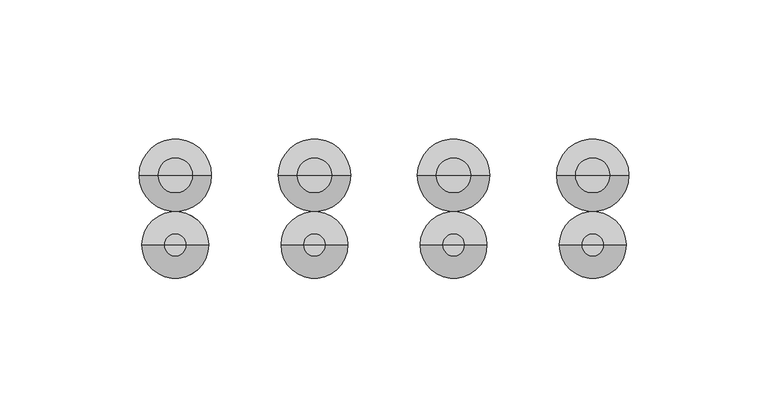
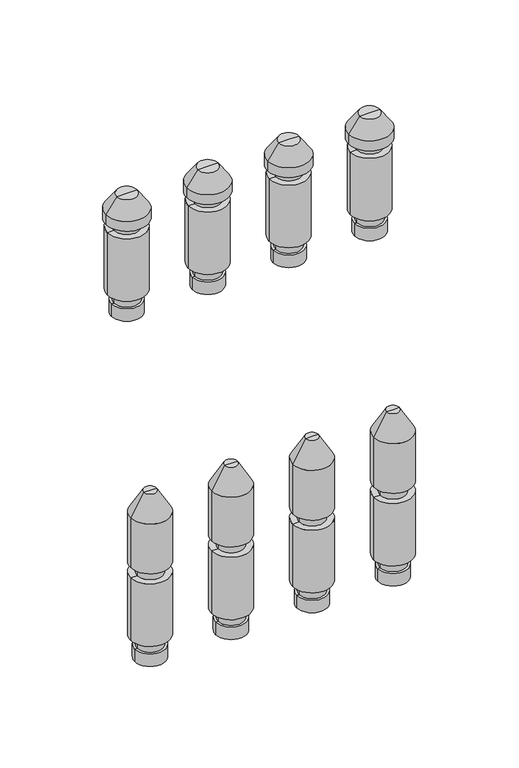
"""IFC4 building model written with IfcOpenShell, lengths in millimetres: valve geometry, PL CZ_Manifold_FT-VA : 06 circuits."""

from ifc_helpers import new_model, si_unit, frame, origin, place, context, project, spatial, polyline, circle_curve, source, transform, mapped, element, save
from ifc_brep_helpers import plane_surface, cylinder_surface, revolved_surface, advanced_brep


def valve_440f56c5(model_context):
    return source(origin(), model_context, "Body", "AdvancedBrep", [
        advanced_brep(
        [(228.5, 0.0, -35.11267), (247.5, 0.0, -35.11267), (238.0, 0.0, -35.11267), (228.5, 0.0, -27.0369646), (247.5, 0.0, -27.0369646), (230.0, 0.0, -27.0369646), (246.0, 0.0, -27.0369646), (230.0, 0.0, -20.330253), (246.0, 0.0, -20.330253), (226.0, 0.0, -20.330253), (250.0, 0.0, -20.330253), (226.0, 0.0, 20.330253), (250.0, 0.0, 20.330253), (230.0, 0.0, 20.330253), (246.0, 0.0, 20.330253), (230.0, 0.0, 27.0474786), (246.0, 0.0, 27.0474786), (226.0, 0.0, 27.0474786), (250.0, 0.0, 27.0474786), (226.0, 0.0, 59.4084325), (250.0, 0.0, 59.4084325), (234.0, 0.0, 73.264839), (242.0, 0.0, 73.264839), (238.0, 0.0, 73.264839)],
        [
            (0, 1, circle_curve(frame((238.0, 0.0, -35.11267), z_axis=(0.0, 0.0, -1.0), x_axis=(1.0, 0.0, 0.0)), 9.5)),
            (1, 2),
            (2, 0),
            (1, 0, circle_curve(frame((238.0, 0.0, -35.11267), z_axis=(0.0, 0.0, -1.0), x_axis=(1.0, 0.0, 0.0)), 9.5)),
            (3, 4, circle_curve(frame((238.0, 0.0, -27.0369646), z_axis=(0.0, 0.0, -1.0), x_axis=(1.0, 0.0, 0.0)), 9.5)),
            (4, 1),
            (0, 3),
            (4, 3, circle_curve(frame((238.0, 0.0, -27.0369646), z_axis=(0.0, 0.0, -1.0), x_axis=(1.0, 0.0, 0.0)), 9.5)),
            (5, 6, circle_curve(frame((238.0, 0.0, -27.0369646), z_axis=(0.0, 0.0, -1.0), x_axis=(1.0, 0.0, 0.0)), 8.0)),
            (6, 4),
            (3, 5),
            (6, 5, circle_curve(frame((238.0, 0.0, -27.0369646), z_axis=(0.0, 0.0, -1.0), x_axis=(1.0, 0.0, 0.0)), 8.0)),
            (7, 8, circle_curve(frame((238.0, 0.0, -20.330253), z_axis=(0.0, 0.0, -1.0), x_axis=(1.0, 0.0, 0.0)), 8.0)),
            (8, 6),
            (5, 7),
            (8, 7, circle_curve(frame((238.0, 0.0, -20.330253), z_axis=(0.0, 0.0, -1.0), x_axis=(1.0, 0.0, 0.0)), 8.0)),
            (9, 10, circle_curve(frame((238.0, 0.0, -20.330253), z_axis=(0.0, 0.0, -1.0), x_axis=(1.0, 0.0, 0.0)), 12.0)),
            (10, 8),
            (7, 9),
            (10, 9, circle_curve(frame((238.0, 0.0, -20.330253), z_axis=(0.0, 0.0, -1.0), x_axis=(1.0, 0.0, 0.0)), 12.0)),
            (11, 12, circle_curve(frame((238.0, 0.0, 20.330253), z_axis=(0.0, 0.0, -1.0), x_axis=(1.0, 0.0, 0.0)), 12.0)),
            (12, 10),
            (9, 11),
            (12, 11, circle_curve(frame((238.0, 0.0, 20.330253), z_axis=(0.0, 0.0, -1.0), x_axis=(1.0, 0.0, 0.0)), 12.0)),
            (13, 14, circle_curve(frame((238.0, 0.0, 20.330253), z_axis=(0.0, 0.0, -1.0), x_axis=(1.0, 0.0, 0.0)), 8.0)),
            (14, 12),
            (11, 13),
            (14, 13, circle_curve(frame((238.0, 0.0, 20.330253), z_axis=(0.0, 0.0, -1.0), x_axis=(1.0, 0.0, 0.0)), 8.0)),
            (15, 16, circle_curve(frame((238.0, 0.0, 27.0474786), z_axis=(0.0, 0.0, -1.0), x_axis=(1.0, 0.0, 0.0)), 8.0)),
            (16, 14),
            (13, 15),
            (16, 15, circle_curve(frame((238.0, 0.0, 27.0474786), z_axis=(0.0, 0.0, -1.0), x_axis=(1.0, 0.0, 0.0)), 8.0)),
            (17, 18, circle_curve(frame((238.0, 0.0, 27.0474786), z_axis=(0.0, 0.0, -1.0), x_axis=(1.0, 0.0, 0.0)), 12.0)),
            (18, 16),
            (15, 17),
            (18, 17, circle_curve(frame((238.0, 0.0, 27.0474786), z_axis=(0.0, 0.0, -1.0), x_axis=(1.0, 0.0, 0.0)), 12.0)),
            (19, 20, circle_curve(frame((238.0, 0.0, 59.4084325), z_axis=(0.0, 0.0, -1.0), x_axis=(1.0, 0.0, 0.0)), 12.0)),
            (20, 18),
            (17, 19),
            (20, 19, circle_curve(frame((238.0, 0.0, 59.4084325), z_axis=(0.0, 0.0, -1.0), x_axis=(1.0, 0.0, 0.0)), 12.0)),
            (21, 22, circle_curve(frame((238.0, 0.0, 73.264839), z_axis=(0.0, 0.0, -1.0), x_axis=(1.0, 0.0, 0.0)), 4.0)),
            (22, 20),
            (19, 21),
            (22, 21, circle_curve(frame((238.0, 0.0, 73.264839), z_axis=(0.0, 0.0, -1.0), x_axis=(1.0, 0.0, 0.0)), 4.0)),
            (23, 22),
            (21, 23),
        ],
        [
            plane_surface(frame((238.0, 0.0, -35.11267), z_axis=(0.0, 0.0, -1.0), x_axis=(1.0, 0.0, 0.0))),
            cylinder_surface(frame((238.0, 0.0, 58.264839), z_axis=(0.0, 0.0, 1.0), x_axis=(1.0, 0.0, 0.0)), 9.5),
            plane_surface(frame((238.0, 0.0, -27.0369646), z_axis=(0.0, 0.0, 1.0), x_axis=(1.0, 0.0, 0.0))),
            cylinder_surface(frame((238.0, 0.0, 58.264839), z_axis=(0.0, 0.0, 1.0), x_axis=(1.0, 0.0, 0.0)), 8.0),
            plane_surface(frame((238.0, 0.0, -20.330253), z_axis=(0.0, 0.0, -1.0), x_axis=(1.0, 0.0, 0.0))),
            cylinder_surface(frame((238.0, 0.0, 58.264839), z_axis=(0.0, 0.0, 1.0), x_axis=(1.0, 0.0, 0.0)), 12.0),
            plane_surface(frame((238.0, 0.0, 20.330253), z_axis=(0.0, 0.0, 1.0), x_axis=(1.0, 0.0, 0.0))),
            plane_surface(frame((238.0, 0.0, 27.0474786), z_axis=(0.0, 0.0, -1.0), x_axis=(1.0, 0.0, 0.0))),
            revolved_surface(polyline([(250.0, 0.0, 59.4084325), (242.0, 0.0, 73.264839)]), (238.0, 0.0, 58.264839), (0.0, 0.0, 1.0)),
            plane_surface(frame((238.0, 0.0, 73.264839), z_axis=(0.0, 0.0, 1.0), x_axis=(1.0, 0.0, 0.0))),
        ],
        [
            (0, [[1, 2, 3]]),
            (0, [[4, -3, -2]]),
            (1, [[5, 6, -1, 7]]),
            (1, [[8, -7, -4, -6]]),
            (2, [[9, 10, -5, 11]]),
            (2, [[12, -11, -8, -10]]),
            (3, [[13, 14, -9, 15]]),
            (3, [[16, -15, -12, -14]]),
            (4, [[17, 18, -13, 19]]),
            (4, [[20, -19, -16, -18]]),
            (5, [[21, 22, -17, 23]]),
            (5, [[24, -23, -20, -22]]),
            (6, [[25, 26, -21, 27]]),
            (6, [[28, -27, -24, -26]]),
            (3, [[29, 30, -25, 31]]),
            (3, [[32, -31, -28, -30]]),
            (7, [[33, 34, -29, 35]]),
            (7, [[36, -35, -32, -34]]),
            (5, [[37, 38, -33, 39]]),
            (5, [[40, -39, -36, -38]]),
            (8, [[41, 42, -37, 43]]),
            (8, [[44, -43, -40, -42]]),
            (9, [[45, -41, 46]]),
            (9, [[-46, -44, -45]]),
        ],
    ),
        advanced_brep(
        [(178.5, 0.0, -35.11267), (197.5, 0.0, -35.11267), (188.0, 0.0, -35.11267), (178.5, 0.0, -27.0369646), (197.5, 0.0, -27.0369646), (180.0, 0.0, -27.0369646), (196.0, 0.0, -27.0369646), (180.0, 0.0, -20.330253), (196.0, 0.0, -20.330253), (176.0, 0.0, -20.330253), (200.0, 0.0, -20.330253), (176.0, 0.0, 20.330253), (200.0, 0.0, 20.330253), (180.0, 0.0, 20.330253), (196.0, 0.0, 20.330253), (180.0, 0.0, 27.0474786), (196.0, 0.0, 27.0474786), (176.0, 0.0, 27.0474786), (200.0, 0.0, 27.0474786), (176.0, 0.0, 59.4084325), (200.0, 0.0, 59.4084325), (184.0, 0.0, 73.264839), (192.0, 0.0, 73.264839), (188.0, 0.0, 73.264839)],
        [
            (0, 1, circle_curve(frame((188.0, 0.0, -35.11267), z_axis=(0.0, 0.0, -1.0), x_axis=(1.0, 0.0, 0.0)), 9.5)),
            (1, 2),
            (2, 0),
            (1, 0, circle_curve(frame((188.0, 0.0, -35.11267), z_axis=(0.0, 0.0, -1.0), x_axis=(1.0, 0.0, 0.0)), 9.5)),
            (3, 4, circle_curve(frame((188.0, 0.0, -27.0369646), z_axis=(0.0, 0.0, -1.0), x_axis=(1.0, 0.0, 0.0)), 9.5)),
            (4, 1),
            (0, 3),
            (4, 3, circle_curve(frame((188.0, 0.0, -27.0369646), z_axis=(0.0, 0.0, -1.0), x_axis=(1.0, 0.0, 0.0)), 9.5)),
            (5, 6, circle_curve(frame((188.0, 0.0, -27.0369646), z_axis=(0.0, 0.0, -1.0), x_axis=(1.0, 0.0, 0.0)), 8.0)),
            (6, 4),
            (3, 5),
            (6, 5, circle_curve(frame((188.0, 0.0, -27.0369646), z_axis=(0.0, 0.0, -1.0), x_axis=(1.0, 0.0, 0.0)), 8.0)),
            (7, 8, circle_curve(frame((188.0, 0.0, -20.330253), z_axis=(0.0, 0.0, -1.0), x_axis=(1.0, 0.0, 0.0)), 8.0)),
            (8, 6),
            (5, 7),
            (8, 7, circle_curve(frame((188.0, 0.0, -20.330253), z_axis=(0.0, 0.0, -1.0), x_axis=(1.0, 0.0, 0.0)), 8.0)),
            (9, 10, circle_curve(frame((188.0, 0.0, -20.330253), z_axis=(0.0, 0.0, -1.0), x_axis=(1.0, 0.0, 0.0)), 12.0)),
            (10, 8),
            (7, 9),
            (10, 9, circle_curve(frame((188.0, 0.0, -20.330253), z_axis=(0.0, 0.0, -1.0), x_axis=(1.0, 0.0, 0.0)), 12.0)),
            (11, 12, circle_curve(frame((188.0, 0.0, 20.330253), z_axis=(0.0, 0.0, -1.0), x_axis=(1.0, 0.0, 0.0)), 12.0)),
            (12, 10),
            (9, 11),
            (12, 11, circle_curve(frame((188.0, 0.0, 20.330253), z_axis=(0.0, 0.0, -1.0), x_axis=(1.0, 0.0, 0.0)), 12.0)),
            (13, 14, circle_curve(frame((188.0, 0.0, 20.330253), z_axis=(0.0, 0.0, -1.0), x_axis=(1.0, 0.0, 0.0)), 8.0)),
            (14, 12),
            (11, 13),
            (14, 13, circle_curve(frame((188.0, 0.0, 20.330253), z_axis=(0.0, 0.0, -1.0), x_axis=(1.0, 0.0, 0.0)), 8.0)),
            (15, 16, circle_curve(frame((188.0, 0.0, 27.0474786), z_axis=(0.0, 0.0, -1.0), x_axis=(1.0, 0.0, 0.0)), 8.0)),
            (16, 14),
            (13, 15),
            (16, 15, circle_curve(frame((188.0, 0.0, 27.0474786), z_axis=(0.0, 0.0, -1.0), x_axis=(1.0, 0.0, 0.0)), 8.0)),
            (17, 18, circle_curve(frame((188.0, 0.0, 27.0474786), z_axis=(0.0, 0.0, -1.0), x_axis=(1.0, 0.0, 0.0)), 12.0)),
            (18, 16),
            (15, 17),
            (18, 17, circle_curve(frame((188.0, 0.0, 27.0474786), z_axis=(0.0, 0.0, -1.0), x_axis=(1.0, 0.0, 0.0)), 12.0)),
            (19, 20, circle_curve(frame((188.0, 0.0, 59.4084325), z_axis=(0.0, 0.0, -1.0), x_axis=(1.0, 0.0, 0.0)), 12.0)),
            (20, 18),
            (17, 19),
            (20, 19, circle_curve(frame((188.0, 0.0, 59.4084325), z_axis=(0.0, 0.0, -1.0), x_axis=(1.0, 0.0, 0.0)), 12.0)),
            (21, 22, circle_curve(frame((188.0, 0.0, 73.264839), z_axis=(0.0, 0.0, -1.0), x_axis=(1.0, 0.0, 0.0)), 4.0)),
            (22, 20),
            (19, 21),
            (22, 21, circle_curve(frame((188.0, 0.0, 73.264839), z_axis=(0.0, 0.0, -1.0), x_axis=(1.0, 0.0, 0.0)), 4.0)),
            (23, 22),
            (21, 23),
        ],
        [
            plane_surface(frame((188.0, 0.0, -35.11267), z_axis=(0.0, 0.0, -1.0), x_axis=(1.0, 0.0, 0.0))),
            cylinder_surface(frame((188.0, 0.0, 58.264839), z_axis=(0.0, 0.0, 1.0), x_axis=(1.0, 0.0, 0.0)), 9.5),
            plane_surface(frame((188.0, 0.0, -27.0369646), z_axis=(0.0, 0.0, 1.0), x_axis=(1.0, 0.0, 0.0))),
            cylinder_surface(frame((188.0, 0.0, 58.264839), z_axis=(0.0, 0.0, 1.0), x_axis=(1.0, 0.0, 0.0)), 8.0),
            plane_surface(frame((188.0, 0.0, -20.330253), z_axis=(0.0, 0.0, -1.0), x_axis=(1.0, 0.0, 0.0))),
            cylinder_surface(frame((188.0, 0.0, 58.264839), z_axis=(0.0, 0.0, 1.0), x_axis=(1.0, 0.0, 0.0)), 12.0),
            plane_surface(frame((188.0, 0.0, 20.330253), z_axis=(0.0, 0.0, 1.0), x_axis=(1.0, 0.0, 0.0))),
            plane_surface(frame((188.0, 0.0, 27.0474786), z_axis=(0.0, 0.0, -1.0), x_axis=(1.0, 0.0, 0.0))),
            revolved_surface(polyline([(200.0, 0.0, 59.4084325), (192.0, 0.0, 73.264839)]), (188.0, 0.0, 58.264839), (0.0, 0.0, 1.0)),
            plane_surface(frame((188.0, 0.0, 73.264839), z_axis=(0.0, 0.0, 1.0), x_axis=(1.0, 0.0, 0.0))),
        ],
        [
            (0, [[1, 2, 3]]),
            (0, [[4, -3, -2]]),
            (1, [[5, 6, -1, 7]]),
            (1, [[8, -7, -4, -6]]),
            (2, [[9, 10, -5, 11]]),
            (2, [[12, -11, -8, -10]]),
            (3, [[13, 14, -9, 15]]),
            (3, [[16, -15, -12, -14]]),
            (4, [[17, 18, -13, 19]]),
            (4, [[20, -19, -16, -18]]),
            (5, [[21, 22, -17, 23]]),
            (5, [[24, -23, -20, -22]]),
            (6, [[25, 26, -21, 27]]),
            (6, [[28, -27, -24, -26]]),
            (3, [[29, 30, -25, 31]]),
            (3, [[32, -31, -28, -30]]),
            (7, [[33, 34, -29, 35]]),
            (7, [[36, -35, -32, -34]]),
            (5, [[37, 38, -33, 39]]),
            (5, [[40, -39, -36, -38]]),
            (8, [[41, 42, -37, 43]]),
            (8, [[44, -43, -40, -42]]),
            (9, [[45, -41, 46]]),
            (9, [[-46, -44, -45]]),
        ],
    ),
        advanced_brep(
        [(128.5, 0.0, -35.11267), (147.5, 0.0, -35.11267), (138.0, 0.0, -35.11267), (128.5, 0.0, -27.0369646), (147.5, 0.0, -27.0369646), (130.0, 0.0, -27.0369646), (146.0, 0.0, -27.0369646), (130.0, 0.0, -20.330253), (146.0, 0.0, -20.330253), (126.0, 0.0, -20.330253), (150.0, 0.0, -20.330253), (126.0, 0.0, 20.330253), (150.0, 0.0, 20.330253), (130.0, 0.0, 20.330253), (146.0, 0.0, 20.330253), (130.0, 0.0, 27.0474786), (146.0, 0.0, 27.0474786), (126.0, 0.0, 27.0474786), (150.0, 0.0, 27.0474786), (126.0, 0.0, 59.4084325), (150.0, 0.0, 59.4084325), (134.0, 0.0, 73.264839), (142.0, 0.0, 73.264839), (138.0, 0.0, 73.264839)],
        [
            (0, 1, circle_curve(frame((138.0, 0.0, -35.11267), z_axis=(0.0, 0.0, -1.0), x_axis=(1.0, 0.0, 0.0)), 9.5)),
            (1, 2),
            (2, 0),
            (1, 0, circle_curve(frame((138.0, 0.0, -35.11267), z_axis=(0.0, 0.0, -1.0), x_axis=(1.0, 0.0, 0.0)), 9.5)),
            (3, 4, circle_curve(frame((138.0, 0.0, -27.0369646), z_axis=(0.0, 0.0, -1.0), x_axis=(1.0, 0.0, 0.0)), 9.5)),
            (4, 1),
            (0, 3),
            (4, 3, circle_curve(frame((138.0, 0.0, -27.0369646), z_axis=(0.0, 0.0, -1.0), x_axis=(1.0, 0.0, 0.0)), 9.5)),
            (5, 6, circle_curve(frame((138.0, 0.0, -27.0369646), z_axis=(0.0, 0.0, -1.0), x_axis=(1.0, 0.0, 0.0)), 8.0)),
            (6, 4),
            (3, 5),
            (6, 5, circle_curve(frame((138.0, 0.0, -27.0369646), z_axis=(0.0, 0.0, -1.0), x_axis=(1.0, 0.0, 0.0)), 8.0)),
            (7, 8, circle_curve(frame((138.0, 0.0, -20.330253), z_axis=(0.0, 0.0, -1.0), x_axis=(1.0, 0.0, 0.0)), 8.0)),
            (8, 6),
            (5, 7),
            (8, 7, circle_curve(frame((138.0, 0.0, -20.330253), z_axis=(0.0, 0.0, -1.0), x_axis=(1.0, 0.0, 0.0)), 8.0)),
            (9, 10, circle_curve(frame((138.0, 0.0, -20.330253), z_axis=(0.0, 0.0, -1.0), x_axis=(1.0, 0.0, 0.0)), 12.0)),
            (10, 8),
            (7, 9),
            (10, 9, circle_curve(frame((138.0, 0.0, -20.330253), z_axis=(0.0, 0.0, -1.0), x_axis=(1.0, 0.0, 0.0)), 12.0)),
            (11, 12, circle_curve(frame((138.0, 0.0, 20.330253), z_axis=(0.0, 0.0, -1.0), x_axis=(1.0, 0.0, 0.0)), 12.0)),
            (12, 10),
            (9, 11),
            (12, 11, circle_curve(frame((138.0, 0.0, 20.330253), z_axis=(0.0, 0.0, -1.0), x_axis=(1.0, 0.0, 0.0)), 12.0)),
            (13, 14, circle_curve(frame((138.0, 0.0, 20.330253), z_axis=(0.0, 0.0, -1.0), x_axis=(1.0, 0.0, 0.0)), 8.0)),
            (14, 12),
            (11, 13),
            (14, 13, circle_curve(frame((138.0, 0.0, 20.330253), z_axis=(0.0, 0.0, -1.0), x_axis=(1.0, 0.0, 0.0)), 8.0)),
            (15, 16, circle_curve(frame((138.0, 0.0, 27.0474786), z_axis=(0.0, 0.0, -1.0), x_axis=(1.0, 0.0, 0.0)), 8.0)),
            (16, 14),
            (13, 15),
            (16, 15, circle_curve(frame((138.0, 0.0, 27.0474786), z_axis=(0.0, 0.0, -1.0), x_axis=(1.0, 0.0, 0.0)), 8.0)),
            (17, 18, circle_curve(frame((138.0, 0.0, 27.0474786), z_axis=(0.0, 0.0, -1.0), x_axis=(1.0, 0.0, 0.0)), 12.0)),
            (18, 16),
            (15, 17),
            (18, 17, circle_curve(frame((138.0, 0.0, 27.0474786), z_axis=(0.0, 0.0, -1.0), x_axis=(1.0, 0.0, 0.0)), 12.0)),
            (19, 20, circle_curve(frame((138.0, 0.0, 59.4084325), z_axis=(0.0, 0.0, -1.0), x_axis=(1.0, 0.0, 0.0)), 12.0)),
            (20, 18),
            (17, 19),
            (20, 19, circle_curve(frame((138.0, 0.0, 59.4084325), z_axis=(0.0, 0.0, -1.0), x_axis=(1.0, 0.0, 0.0)), 12.0)),
            (21, 22, circle_curve(frame((138.0, 0.0, 73.264839), z_axis=(0.0, 0.0, -1.0), x_axis=(1.0, 0.0, 0.0)), 4.0)),
            (22, 20),
            (19, 21),
            (22, 21, circle_curve(frame((138.0, 0.0, 73.264839), z_axis=(0.0, 0.0, -1.0), x_axis=(1.0, 0.0, 0.0)), 4.0)),
            (23, 22),
            (21, 23),
        ],
        [
            plane_surface(frame((138.0, 0.0, -35.11267), z_axis=(0.0, 0.0, -1.0), x_axis=(1.0, 0.0, 0.0))),
            cylinder_surface(frame((138.0, 0.0, 58.264839), z_axis=(0.0, 0.0, 1.0), x_axis=(1.0, 0.0, 0.0)), 9.5),
            plane_surface(frame((138.0, 0.0, -27.0369646), z_axis=(0.0, 0.0, 1.0), x_axis=(1.0, 0.0, 0.0))),
            cylinder_surface(frame((138.0, 0.0, 58.264839), z_axis=(0.0, 0.0, 1.0), x_axis=(1.0, 0.0, 0.0)), 8.0),
            plane_surface(frame((138.0, 0.0, -20.330253), z_axis=(0.0, 0.0, -1.0), x_axis=(1.0, 0.0, 0.0))),
            cylinder_surface(frame((138.0, 0.0, 58.264839), z_axis=(0.0, 0.0, 1.0), x_axis=(1.0, 0.0, 0.0)), 12.0),
            plane_surface(frame((138.0, 0.0, 20.330253), z_axis=(0.0, 0.0, 1.0), x_axis=(1.0, 0.0, 0.0))),
            plane_surface(frame((138.0, 0.0, 27.0474786), z_axis=(0.0, 0.0, -1.0), x_axis=(1.0, 0.0, 0.0))),
            revolved_surface(polyline([(150.0, 0.0, 59.4084325), (142.0, 0.0, 73.264839)]), (138.0, 0.0, 58.264839), (0.0, 0.0, 1.0)),
            plane_surface(frame((138.0, 0.0, 73.264839), z_axis=(0.0, 0.0, 1.0), x_axis=(1.0, 0.0, 0.0))),
        ],
        [
            (0, [[1, 2, 3]]),
            (0, [[4, -3, -2]]),
            (1, [[5, 6, -1, 7]]),
            (1, [[8, -7, -4, -6]]),
            (2, [[9, 10, -5, 11]]),
            (2, [[12, -11, -8, -10]]),
            (3, [[13, 14, -9, 15]]),
            (3, [[16, -15, -12, -14]]),
            (4, [[17, 18, -13, 19]]),
            (4, [[20, -19, -16, -18]]),
            (5, [[21, 22, -17, 23]]),
            (5, [[24, -23, -20, -22]]),
            (6, [[25, 26, -21, 27]]),
            (6, [[28, -27, -24, -26]]),
            (3, [[29, 30, -25, 31]]),
            (3, [[32, -31, -28, -30]]),
            (7, [[33, 34, -29, 35]]),
            (7, [[36, -35, -32, -34]]),
            (5, [[37, 38, -33, 39]]),
            (5, [[40, -39, -36, -38]]),
            (8, [[41, 42, -37, 43]]),
            (8, [[44, -43, -40, -42]]),
            (9, [[45, -41, 46]]),
            (9, [[-46, -44, -45]]),
        ],
    ),
        advanced_brep(
        [(228.5, 25.0, 174.88733), (247.5, 25.0, 174.88733), (238.0, 25.0, 174.88733), (228.5, 25.0, 182.9630354), (247.5, 25.0, 182.9630354), (230.0, 25.0, 182.9630354), (246.0, 25.0, 182.9630354), (230.0, 25.0, 189.669747), (246.0, 25.0, 189.669747), (226.0, 25.0, 189.669747), (250.0, 25.0, 189.669747), (226.0, 25.0, 230.330253), (250.0, 25.0, 230.330253), (230.0, 25.0, 230.330253), (246.0, 25.0, 230.330253), (230.0, 25.0, 236.0474786), (246.0, 25.0, 236.0474786), (225.0, 25.0, 236.0474786), (251.0, 25.0, 236.0474786), (225.0, 25.0, 242.337955), (251.0, 25.0, 242.337955), (231.6551779, 25.0, 251.842534), (244.3448221, 25.0, 251.842534), (238.0, 25.0, 251.842534)],
        [
            (0, 1, circle_curve(frame((238.0, 25.0, 174.88733), z_axis=(0.0, 0.0, -1.0), x_axis=(1.0, 0.0, 0.0)), 9.5)),
            (1, 2),
            (2, 0),
            (1, 0, circle_curve(frame((238.0, 25.0, 174.88733), z_axis=(0.0, 0.0, -1.0), x_axis=(1.0, 0.0, 0.0)), 9.5)),
            (3, 4, circle_curve(frame((238.0, 25.0, 182.9630354), z_axis=(0.0, 0.0, -1.0), x_axis=(1.0, 0.0, 0.0)), 9.5)),
            (4, 1),
            (0, 3),
            (4, 3, circle_curve(frame((238.0, 25.0, 182.9630354), z_axis=(0.0, 0.0, -1.0), x_axis=(1.0, 0.0, 0.0)), 9.5)),
            (5, 6, circle_curve(frame((238.0, 25.0, 182.9630354), z_axis=(0.0, 0.0, -1.0), x_axis=(1.0, 0.0, 0.0)), 8.0)),
            (6, 4),
            (3, 5),
            (6, 5, circle_curve(frame((238.0, 25.0, 182.9630354), z_axis=(0.0, 0.0, -1.0), x_axis=(1.0, 0.0, 0.0)), 8.0)),
            (7, 8, circle_curve(frame((238.0, 25.0, 189.669747), z_axis=(0.0, 0.0, -1.0), x_axis=(1.0, 0.0, 0.0)), 8.0)),
            (8, 6),
            (5, 7),
            (8, 7, circle_curve(frame((238.0, 25.0, 189.669747), z_axis=(0.0, 0.0, -1.0), x_axis=(1.0, 0.0, 0.0)), 8.0)),
            (9, 10, circle_curve(frame((238.0, 25.0, 189.669747), z_axis=(0.0, 0.0, -1.0), x_axis=(1.0, 0.0, 0.0)), 12.0)),
            (10, 8),
            (7, 9),
            (10, 9, circle_curve(frame((238.0, 25.0, 189.669747), z_axis=(0.0, 0.0, -1.0), x_axis=(1.0, 0.0, 0.0)), 12.0)),
            (11, 12, circle_curve(frame((238.0, 25.0, 230.330253), z_axis=(0.0, 0.0, -1.0), x_axis=(1.0, 0.0, 0.0)), 12.0)),
            (12, 10),
            (9, 11),
            (12, 11, circle_curve(frame((238.0, 25.0, 230.330253), z_axis=(0.0, 0.0, -1.0), x_axis=(1.0, 0.0, 0.0)), 12.0)),
            (13, 14, circle_curve(frame((238.0, 25.0, 230.330253), z_axis=(0.0, 0.0, -1.0), x_axis=(1.0, 0.0, 0.0)), 8.0)),
            (14, 12),
            (11, 13),
            (14, 13, circle_curve(frame((238.0, 25.0, 230.330253), z_axis=(0.0, 0.0, -1.0), x_axis=(1.0, 0.0, 0.0)), 8.0)),
            (15, 16, circle_curve(frame((238.0, 25.0, 236.0474786), z_axis=(0.0, 0.0, -1.0), x_axis=(1.0, 0.0, 0.0)), 8.0)),
            (16, 14),
            (13, 15),
            (16, 15, circle_curve(frame((238.0, 25.0, 236.0474786), z_axis=(0.0, 0.0, -1.0), x_axis=(1.0, 0.0, 0.0)), 8.0)),
            (17, 18, circle_curve(frame((238.0, 25.0, 236.0474786), z_axis=(0.0, 0.0, -1.0), x_axis=(1.0, 0.0, 0.0)), 13.0)),
            (18, 16),
            (15, 17),
            (18, 17, circle_curve(frame((238.0, 25.0, 236.0474786), z_axis=(0.0, 0.0, -1.0), x_axis=(1.0, 0.0, 0.0)), 13.0)),
            (19, 20, circle_curve(frame((238.0, 25.0, 242.337955), z_axis=(0.0, 0.0, -1.0), x_axis=(1.0, 0.0, 0.0)), 13.0)),
            (20, 18),
            (17, 19),
            (20, 19, circle_curve(frame((238.0, 25.0, 242.337955), z_axis=(0.0, 0.0, -1.0), x_axis=(1.0, 0.0, 0.0)), 13.0)),
            (21, 22, circle_curve(frame((238.0, 25.0, 251.842534), z_axis=(0.0, 0.0, -1.0), x_axis=(1.0, 0.0, 0.0)), 6.3448221)),
            (22, 20),
            (19, 21),
            (22, 21, circle_curve(frame((238.0, 25.0, 251.842534), z_axis=(0.0, 0.0, -1.0), x_axis=(1.0, 0.0, 0.0)), 6.3448221)),
            (23, 22),
            (21, 23),
        ],
        [
            plane_surface(frame((238.0, 25.0, 174.88733), z_axis=(0.0, 0.0, -1.0), x_axis=(1.0, 0.0, 0.0))),
            cylinder_surface(frame((238.0, 25.0, 247.7026565), z_axis=(0.0, 0.0, 1.0), x_axis=(1.0, 0.0, 0.0)), 9.5),
            plane_surface(frame((238.0, 25.0, 182.9630354), z_axis=(0.0, 0.0, 1.0), x_axis=(1.0, 0.0, 0.0))),
            cylinder_surface(frame((238.0, 25.0, 247.7026565), z_axis=(0.0, 0.0, 1.0), x_axis=(1.0, 0.0, 0.0)), 8.0),
            plane_surface(frame((238.0, 25.0, 189.669747), z_axis=(0.0, 0.0, -1.0), x_axis=(1.0, 0.0, 0.0))),
            cylinder_surface(frame((238.0, 25.0, 247.7026565), z_axis=(0.0, 0.0, 1.0), x_axis=(1.0, 0.0, 0.0)), 12.0),
            plane_surface(frame((238.0, 25.0, 230.330253), z_axis=(0.0, 0.0, 1.0), x_axis=(1.0, 0.0, 0.0))),
            plane_surface(frame((238.0, 25.0, 236.0474786), z_axis=(0.0, 0.0, -1.0), x_axis=(1.0, 0.0, 0.0))),
            cylinder_surface(frame((238.0, 25.0, 247.7026565), z_axis=(0.0, 0.0, 1.0), x_axis=(1.0, 0.0, 0.0)), 13.0),
            revolved_surface(polyline([(251.0, 25.0, 242.337955), (244.3448221, 25.0, 251.842534)]), (238.0, 25.0, 247.7026565), (0.0, 0.0, 1.0)),
            plane_surface(frame((238.0, 25.0, 251.842534), z_axis=(0.0, 0.0, 1.0), x_axis=(1.0, 0.0, 0.0))),
        ],
        [
            (0, [[1, 2, 3]]),
            (0, [[4, -3, -2]]),
            (1, [[5, 6, -1, 7]]),
            (1, [[8, -7, -4, -6]]),
            (2, [[9, 10, -5, 11]]),
            (2, [[12, -11, -8, -10]]),
            (3, [[13, 14, -9, 15]]),
            (3, [[16, -15, -12, -14]]),
            (4, [[17, 18, -13, 19]]),
            (4, [[20, -19, -16, -18]]),
            (5, [[21, 22, -17, 23]]),
            (5, [[24, -23, -20, -22]]),
            (6, [[25, 26, -21, 27]]),
            (6, [[28, -27, -24, -26]]),
            (3, [[29, 30, -25, 31]]),
            (3, [[32, -31, -28, -30]]),
            (7, [[33, 34, -29, 35]]),
            (7, [[36, -35, -32, -34]]),
            (8, [[37, 38, -33, 39]]),
            (8, [[40, -39, -36, -38]]),
            (9, [[41, 42, -37, 43]]),
            (9, [[44, -43, -40, -42]]),
            (10, [[45, -41, 46]]),
            (10, [[-46, -44, -45]]),
        ],
    ),
        advanced_brep(
        [(178.5, 25.0, 174.88733), (197.5, 25.0, 174.88733), (188.0, 25.0, 174.88733), (178.5, 25.0, 182.9630354), (197.5, 25.0, 182.9630354), (180.0, 25.0, 182.9630354), (196.0, 25.0, 182.9630354), (180.0, 25.0, 189.669747), (196.0, 25.0, 189.669747), (176.0, 25.0, 189.669747), (200.0, 25.0, 189.669747), (176.0, 25.0, 230.330253), (200.0, 25.0, 230.330253), (180.0, 25.0, 230.330253), (196.0, 25.0, 230.330253), (180.0, 25.0, 236.0474786), (196.0, 25.0, 236.0474786), (175.0, 25.0, 236.0474786), (201.0, 25.0, 236.0474786), (175.0, 25.0, 242.337955), (201.0, 25.0, 242.337955), (181.6551779, 25.0, 251.842534), (194.3448221, 25.0, 251.842534), (188.0, 25.0, 251.842534)],
        [
            (0, 1, circle_curve(frame((188.0, 25.0, 174.88733), z_axis=(0.0, 0.0, -1.0), x_axis=(1.0, 0.0, 0.0)), 9.5)),
            (1, 2),
            (2, 0),
            (1, 0, circle_curve(frame((188.0, 25.0, 174.88733), z_axis=(0.0, 0.0, -1.0), x_axis=(1.0, 0.0, 0.0)), 9.5)),
            (3, 4, circle_curve(frame((188.0, 25.0, 182.9630354), z_axis=(0.0, 0.0, -1.0), x_axis=(1.0, 0.0, 0.0)), 9.5)),
            (4, 1),
            (0, 3),
            (4, 3, circle_curve(frame((188.0, 25.0, 182.9630354), z_axis=(0.0, 0.0, -1.0), x_axis=(1.0, 0.0, 0.0)), 9.5)),
            (5, 6, circle_curve(frame((188.0, 25.0, 182.9630354), z_axis=(0.0, 0.0, -1.0), x_axis=(1.0, 0.0, 0.0)), 8.0)),
            (6, 4),
            (3, 5),
            (6, 5, circle_curve(frame((188.0, 25.0, 182.9630354), z_axis=(0.0, 0.0, -1.0), x_axis=(1.0, 0.0, 0.0)), 8.0)),
            (7, 8, circle_curve(frame((188.0, 25.0, 189.669747), z_axis=(0.0, 0.0, -1.0), x_axis=(1.0, 0.0, 0.0)), 8.0)),
            (8, 6),
            (5, 7),
            (8, 7, circle_curve(frame((188.0, 25.0, 189.669747), z_axis=(0.0, 0.0, -1.0), x_axis=(1.0, 0.0, 0.0)), 8.0)),
            (9, 10, circle_curve(frame((188.0, 25.0, 189.669747), z_axis=(0.0, 0.0, -1.0), x_axis=(1.0, 0.0, 0.0)), 12.0)),
            (10, 8),
            (7, 9),
            (10, 9, circle_curve(frame((188.0, 25.0, 189.669747), z_axis=(0.0, 0.0, -1.0), x_axis=(1.0, 0.0, 0.0)), 12.0)),
            (11, 12, circle_curve(frame((188.0, 25.0, 230.330253), z_axis=(0.0, 0.0, -1.0), x_axis=(1.0, 0.0, 0.0)), 12.0)),
            (12, 10),
            (9, 11),
            (12, 11, circle_curve(frame((188.0, 25.0, 230.330253), z_axis=(0.0, 0.0, -1.0), x_axis=(1.0, 0.0, 0.0)), 12.0)),
            (13, 14, circle_curve(frame((188.0, 25.0, 230.330253), z_axis=(0.0, 0.0, -1.0), x_axis=(1.0, 0.0, 0.0)), 8.0)),
            (14, 12),
            (11, 13),
            (14, 13, circle_curve(frame((188.0, 25.0, 230.330253), z_axis=(0.0, 0.0, -1.0), x_axis=(1.0, 0.0, 0.0)), 8.0)),
            (15, 16, circle_curve(frame((188.0, 25.0, 236.0474786), z_axis=(0.0, 0.0, -1.0), x_axis=(1.0, 0.0, 0.0)), 8.0)),
            (16, 14),
            (13, 15),
            (16, 15, circle_curve(frame((188.0, 25.0, 236.0474786), z_axis=(0.0, 0.0, -1.0), x_axis=(1.0, 0.0, 0.0)), 8.0)),
            (17, 18, circle_curve(frame((188.0, 25.0, 236.0474786), z_axis=(0.0, 0.0, -1.0), x_axis=(1.0, 0.0, 0.0)), 13.0)),
            (18, 16),
            (15, 17),
            (18, 17, circle_curve(frame((188.0, 25.0, 236.0474786), z_axis=(0.0, 0.0, -1.0), x_axis=(1.0, 0.0, 0.0)), 13.0)),
            (19, 20, circle_curve(frame((188.0, 25.0, 242.337955), z_axis=(0.0, 0.0, -1.0), x_axis=(1.0, 0.0, 0.0)), 13.0)),
            (20, 18),
            (17, 19),
            (20, 19, circle_curve(frame((188.0, 25.0, 242.337955), z_axis=(0.0, 0.0, -1.0), x_axis=(1.0, 0.0, 0.0)), 13.0)),
            (21, 22, circle_curve(frame((188.0, 25.0, 251.842534), z_axis=(0.0, 0.0, -1.0), x_axis=(1.0, 0.0, 0.0)), 6.3448221)),
            (22, 20),
            (19, 21),
            (22, 21, circle_curve(frame((188.0, 25.0, 251.842534), z_axis=(0.0, 0.0, -1.0), x_axis=(1.0, 0.0, 0.0)), 6.3448221)),
            (23, 22),
            (21, 23),
        ],
        [
            plane_surface(frame((188.0, 25.0, 174.88733), z_axis=(0.0, 0.0, -1.0), x_axis=(1.0, 0.0, 0.0))),
            cylinder_surface(frame((188.0, 25.0, 247.7026565), z_axis=(0.0, 0.0, 1.0), x_axis=(1.0, 0.0, 0.0)), 9.5),
            plane_surface(frame((188.0, 25.0, 182.9630354), z_axis=(0.0, 0.0, 1.0), x_axis=(1.0, 0.0, 0.0))),
            cylinder_surface(frame((188.0, 25.0, 247.7026565), z_axis=(0.0, 0.0, 1.0), x_axis=(1.0, 0.0, 0.0)), 8.0),
            plane_surface(frame((188.0, 25.0, 189.669747), z_axis=(0.0, 0.0, -1.0), x_axis=(1.0, 0.0, 0.0))),
            cylinder_surface(frame((188.0, 25.0, 247.7026565), z_axis=(0.0, 0.0, 1.0), x_axis=(1.0, 0.0, 0.0)), 12.0),
            plane_surface(frame((188.0, 25.0, 230.330253), z_axis=(0.0, 0.0, 1.0), x_axis=(1.0, 0.0, 0.0))),
            plane_surface(frame((188.0, 25.0, 236.0474786), z_axis=(0.0, 0.0, -1.0), x_axis=(1.0, 0.0, 0.0))),
            cylinder_surface(frame((188.0, 25.0, 247.7026565), z_axis=(0.0, 0.0, 1.0), x_axis=(1.0, 0.0, 0.0)), 13.0),
            revolved_surface(polyline([(201.0, 25.0, 242.337955), (194.3448221, 25.0, 251.842534)]), (188.0, 25.0, 247.7026565), (0.0, 0.0, 1.0)),
            plane_surface(frame((188.0, 25.0, 251.842534), z_axis=(0.0, 0.0, 1.0), x_axis=(1.0, 0.0, 0.0))),
        ],
        [
            (0, [[1, 2, 3]]),
            (0, [[4, -3, -2]]),
            (1, [[5, 6, -1, 7]]),
            (1, [[8, -7, -4, -6]]),
            (2, [[9, 10, -5, 11]]),
            (2, [[12, -11, -8, -10]]),
            (3, [[13, 14, -9, 15]]),
            (3, [[16, -15, -12, -14]]),
            (4, [[17, 18, -13, 19]]),
            (4, [[20, -19, -16, -18]]),
            (5, [[21, 22, -17, 23]]),
            (5, [[24, -23, -20, -22]]),
            (6, [[25, 26, -21, 27]]),
            (6, [[28, -27, -24, -26]]),
            (3, [[29, 30, -25, 31]]),
            (3, [[32, -31, -28, -30]]),
            (7, [[33, 34, -29, 35]]),
            (7, [[36, -35, -32, -34]]),
            (8, [[37, 38, -33, 39]]),
            (8, [[40, -39, -36, -38]]),
            (9, [[41, 42, -37, 43]]),
            (9, [[44, -43, -40, -42]]),
            (10, [[45, -41, 46]]),
            (10, [[-46, -44, -45]]),
        ],
    ),
        advanced_brep(
        [(128.5, 25.0, 174.88733), (147.5, 25.0, 174.88733), (138.0, 25.0, 174.88733), (128.5, 25.0, 182.9630354), (147.5, 25.0, 182.9630354), (130.0, 25.0, 182.9630354), (146.0, 25.0, 182.9630354), (130.0, 25.0, 189.669747), (146.0, 25.0, 189.669747), (126.0, 25.0, 189.669747), (150.0, 25.0, 189.669747), (126.0, 25.0, 230.330253), (150.0, 25.0, 230.330253), (130.0, 25.0, 230.330253), (146.0, 25.0, 230.330253), (130.0, 25.0, 236.0474786), (146.0, 25.0, 236.0474786), (125.0, 25.0, 236.0474786), (151.0, 25.0, 236.0474786), (125.0, 25.0, 242.337955), (151.0, 25.0, 242.337955), (131.6551779, 25.0, 251.842534), (144.3448221, 25.0, 251.842534), (138.0, 25.0, 251.842534)],
        [
            (0, 1, circle_curve(frame((138.0, 25.0, 174.88733), z_axis=(0.0, 0.0, -1.0), x_axis=(1.0, 0.0, 0.0)), 9.5)),
            (1, 2),
            (2, 0),
            (1, 0, circle_curve(frame((138.0, 25.0, 174.88733), z_axis=(0.0, 0.0, -1.0), x_axis=(1.0, 0.0, 0.0)), 9.5)),
            (3, 4, circle_curve(frame((138.0, 25.0, 182.9630354), z_axis=(0.0, 0.0, -1.0), x_axis=(1.0, 0.0, 0.0)), 9.5)),
            (4, 1),
            (0, 3),
            (4, 3, circle_curve(frame((138.0, 25.0, 182.9630354), z_axis=(0.0, 0.0, -1.0), x_axis=(1.0, 0.0, 0.0)), 9.5)),
            (5, 6, circle_curve(frame((138.0, 25.0, 182.9630354), z_axis=(0.0, 0.0, -1.0), x_axis=(1.0, 0.0, 0.0)), 8.0)),
            (6, 4),
            (3, 5),
            (6, 5, circle_curve(frame((138.0, 25.0, 182.9630354), z_axis=(0.0, 0.0, -1.0), x_axis=(1.0, 0.0, 0.0)), 8.0)),
            (7, 8, circle_curve(frame((138.0, 25.0, 189.669747), z_axis=(0.0, 0.0, -1.0), x_axis=(1.0, 0.0, 0.0)), 8.0)),
            (8, 6),
            (5, 7),
            (8, 7, circle_curve(frame((138.0, 25.0, 189.669747), z_axis=(0.0, 0.0, -1.0), x_axis=(1.0, 0.0, 0.0)), 8.0)),
            (9, 10, circle_curve(frame((138.0, 25.0, 189.669747), z_axis=(0.0, 0.0, -1.0), x_axis=(1.0, 0.0, 0.0)), 12.0)),
            (10, 8),
            (7, 9),
            (10, 9, circle_curve(frame((138.0, 25.0, 189.669747), z_axis=(0.0, 0.0, -1.0), x_axis=(1.0, 0.0, 0.0)), 12.0)),
            (11, 12, circle_curve(frame((138.0, 25.0, 230.330253), z_axis=(0.0, 0.0, -1.0), x_axis=(1.0, 0.0, 0.0)), 12.0)),
            (12, 10),
            (9, 11),
            (12, 11, circle_curve(frame((138.0, 25.0, 230.330253), z_axis=(0.0, 0.0, -1.0), x_axis=(1.0, 0.0, 0.0)), 12.0)),
            (13, 14, circle_curve(frame((138.0, 25.0, 230.330253), z_axis=(0.0, 0.0, -1.0), x_axis=(1.0, 0.0, 0.0)), 8.0)),
            (14, 12),
            (11, 13),
            (14, 13, circle_curve(frame((138.0, 25.0, 230.330253), z_axis=(0.0, 0.0, -1.0), x_axis=(1.0, 0.0, 0.0)), 8.0)),
            (15, 16, circle_curve(frame((138.0, 25.0, 236.0474786), z_axis=(0.0, 0.0, -1.0), x_axis=(1.0, 0.0, 0.0)), 8.0)),
            (16, 14),
            (13, 15),
            (16, 15, circle_curve(frame((138.0, 25.0, 236.0474786), z_axis=(0.0, 0.0, -1.0), x_axis=(1.0, 0.0, 0.0)), 8.0)),
            (17, 18, circle_curve(frame((138.0, 25.0, 236.0474786), z_axis=(0.0, 0.0, -1.0), x_axis=(1.0, 0.0, 0.0)), 13.0)),
            (18, 16),
            (15, 17),
            (18, 17, circle_curve(frame((138.0, 25.0, 236.0474786), z_axis=(0.0, 0.0, -1.0), x_axis=(1.0, 0.0, 0.0)), 13.0)),
            (19, 20, circle_curve(frame((138.0, 25.0, 242.337955), z_axis=(0.0, 0.0, -1.0), x_axis=(1.0, 0.0, 0.0)), 13.0)),
            (20, 18),
            (17, 19),
            (20, 19, circle_curve(frame((138.0, 25.0, 242.337955), z_axis=(0.0, 0.0, -1.0), x_axis=(1.0, 0.0, 0.0)), 13.0)),
            (21, 22, circle_curve(frame((138.0, 25.0, 251.842534), z_axis=(0.0, 0.0, -1.0), x_axis=(1.0, 0.0, 0.0)), 6.3448221)),
            (22, 20),
            (19, 21),
            (22, 21, circle_curve(frame((138.0, 25.0, 251.842534), z_axis=(0.0, 0.0, -1.0), x_axis=(1.0, 0.0, 0.0)), 6.3448221)),
            (23, 22),
            (21, 23),
        ],
        [
            plane_surface(frame((138.0, 25.0, 174.88733), z_axis=(0.0, 0.0, -1.0), x_axis=(1.0, 0.0, 0.0))),
            cylinder_surface(frame((138.0, 25.0, 247.7026565), z_axis=(0.0, 0.0, 1.0), x_axis=(1.0, 0.0, 0.0)), 9.5),
            plane_surface(frame((138.0, 25.0, 182.9630354), z_axis=(0.0, 0.0, 1.0), x_axis=(1.0, 0.0, 0.0))),
            cylinder_surface(frame((138.0, 25.0, 247.7026565), z_axis=(0.0, 0.0, 1.0), x_axis=(1.0, 0.0, 0.0)), 8.0),
            plane_surface(frame((138.0, 25.0, 189.669747), z_axis=(0.0, 0.0, -1.0), x_axis=(1.0, 0.0, 0.0))),
            cylinder_surface(frame((138.0, 25.0, 247.7026565), z_axis=(0.0, 0.0, 1.0), x_axis=(1.0, 0.0, 0.0)), 12.0),
            plane_surface(frame((138.0, 25.0, 230.330253), z_axis=(0.0, 0.0, 1.0), x_axis=(1.0, 0.0, 0.0))),
            plane_surface(frame((138.0, 25.0, 236.0474786), z_axis=(0.0, 0.0, -1.0), x_axis=(1.0, 0.0, 0.0))),
            cylinder_surface(frame((138.0, 25.0, 247.7026565), z_axis=(0.0, 0.0, 1.0), x_axis=(1.0, 0.0, 0.0)), 13.0),
            revolved_surface(polyline([(151.0, 25.0, 242.337955), (144.3448221, 25.0, 251.842534)]), (138.0, 25.0, 247.7026565), (0.0, 0.0, 1.0)),
            plane_surface(frame((138.0, 25.0, 251.842534), z_axis=(0.0, 0.0, 1.0), x_axis=(1.0, 0.0, 0.0))),
        ],
        [
            (0, [[1, 2, 3]]),
            (0, [[4, -3, -2]]),
            (1, [[5, 6, -1, 7]]),
            (1, [[8, -7, -4, -6]]),
            (2, [[9, 10, -5, 11]]),
            (2, [[12, -11, -8, -10]]),
            (3, [[13, 14, -9, 15]]),
            (3, [[16, -15, -12, -14]]),
            (4, [[17, 18, -13, 19]]),
            (4, [[20, -19, -16, -18]]),
            (5, [[21, 22, -17, 23]]),
            (5, [[24, -23, -20, -22]]),
            (6, [[25, 26, -21, 27]]),
            (6, [[28, -27, -24, -26]]),
            (3, [[29, 30, -25, 31]]),
            (3, [[32, -31, -28, -30]]),
            (7, [[33, 34, -29, 35]]),
            (7, [[36, -35, -32, -34]]),
            (8, [[37, 38, -33, 39]]),
            (8, [[40, -39, -36, -38]]),
            (9, [[41, 42, -37, 43]]),
            (9, [[44, -43, -40, -42]]),
            (10, [[45, -41, 46]]),
            (10, [[-46, -44, -45]]),
        ],
    ),
        advanced_brep(
        [(78.5, 0.0, -35.11267), (97.5, 0.0, -35.11267), (88.0, 0.0, -35.11267), (78.5, 0.0, -27.0369646), (97.5, 0.0, -27.0369646), (80.0, 0.0, -27.0369646), (96.0, 0.0, -27.0369646), (80.0, 0.0, -20.330253), (96.0, 0.0, -20.330253), (76.0, 0.0, -20.330253), (100.0, 0.0, -20.330253), (76.0, 0.0, 20.330253), (100.0, 0.0, 20.330253), (80.0, 0.0, 20.330253), (96.0, 0.0, 20.330253), (80.0, 0.0, 27.0474786), (96.0, 0.0, 27.0474786), (76.0, 0.0, 27.0474786), (100.0, 0.0, 27.0474786), (76.0, 0.0, 59.4084325), (100.0, 0.0, 59.4084325), (84.0, 0.0, 73.264839), (92.0, 0.0, 73.264839), (88.0, 0.0, 73.264839)],
        [
            (0, 1, circle_curve(frame((88.0, 0.0, -35.11267), z_axis=(0.0, 0.0, -1.0), x_axis=(1.0, 0.0, 0.0)), 9.5)),
            (1, 2),
            (2, 0),
            (1, 0, circle_curve(frame((88.0, 0.0, -35.11267), z_axis=(0.0, 0.0, -1.0), x_axis=(1.0, 0.0, 0.0)), 9.5)),
            (3, 4, circle_curve(frame((88.0, 0.0, -27.0369646), z_axis=(0.0, 0.0, -1.0), x_axis=(1.0, 0.0, 0.0)), 9.5)),
            (4, 1),
            (0, 3),
            (4, 3, circle_curve(frame((88.0, 0.0, -27.0369646), z_axis=(0.0, 0.0, -1.0), x_axis=(1.0, 0.0, 0.0)), 9.5)),
            (5, 6, circle_curve(frame((88.0, 0.0, -27.0369646), z_axis=(0.0, 0.0, -1.0), x_axis=(1.0, 0.0, 0.0)), 8.0)),
            (6, 4),
            (3, 5),
            (6, 5, circle_curve(frame((88.0, 0.0, -27.0369646), z_axis=(0.0, 0.0, -1.0), x_axis=(1.0, 0.0, 0.0)), 8.0)),
            (7, 8, circle_curve(frame((88.0, 0.0, -20.330253), z_axis=(0.0, 0.0, -1.0), x_axis=(1.0, 0.0, 0.0)), 8.0)),
            (8, 6),
            (5, 7),
            (8, 7, circle_curve(frame((88.0, 0.0, -20.330253), z_axis=(0.0, 0.0, -1.0), x_axis=(1.0, 0.0, 0.0)), 8.0)),
            (9, 10, circle_curve(frame((88.0, 0.0, -20.330253), z_axis=(0.0, 0.0, -1.0), x_axis=(1.0, 0.0, 0.0)), 12.0)),
            (10, 8),
            (7, 9),
            (10, 9, circle_curve(frame((88.0, 0.0, -20.330253), z_axis=(0.0, 0.0, -1.0), x_axis=(1.0, 0.0, 0.0)), 12.0)),
            (11, 12, circle_curve(frame((88.0, 0.0, 20.330253), z_axis=(0.0, 0.0, -1.0), x_axis=(1.0, 0.0, 0.0)), 12.0)),
            (12, 10),
            (9, 11),
            (12, 11, circle_curve(frame((88.0, 0.0, 20.330253), z_axis=(0.0, 0.0, -1.0), x_axis=(1.0, 0.0, 0.0)), 12.0)),
            (13, 14, circle_curve(frame((88.0, 0.0, 20.330253), z_axis=(0.0, 0.0, -1.0), x_axis=(1.0, 0.0, 0.0)), 8.0)),
            (14, 12),
            (11, 13),
            (14, 13, circle_curve(frame((88.0, 0.0, 20.330253), z_axis=(0.0, 0.0, -1.0), x_axis=(1.0, 0.0, 0.0)), 8.0)),
            (15, 16, circle_curve(frame((88.0, 0.0, 27.0474786), z_axis=(0.0, 0.0, -1.0), x_axis=(1.0, 0.0, 0.0)), 8.0)),
            (16, 14),
            (13, 15),
            (16, 15, circle_curve(frame((88.0, 0.0, 27.0474786), z_axis=(0.0, 0.0, -1.0), x_axis=(1.0, 0.0, 0.0)), 8.0)),
            (17, 18, circle_curve(frame((88.0, 0.0, 27.0474786), z_axis=(0.0, 0.0, -1.0), x_axis=(1.0, 0.0, 0.0)), 12.0)),
            (18, 16),
            (15, 17),
            (18, 17, circle_curve(frame((88.0, 0.0, 27.0474786), z_axis=(0.0, 0.0, -1.0), x_axis=(1.0, 0.0, 0.0)), 12.0)),
            (19, 20, circle_curve(frame((88.0, 0.0, 59.4084325), z_axis=(0.0, 0.0, -1.0), x_axis=(1.0, 0.0, 0.0)), 12.0)),
            (20, 18),
            (17, 19),
            (20, 19, circle_curve(frame((88.0, 0.0, 59.4084325), z_axis=(0.0, 0.0, -1.0), x_axis=(1.0, 0.0, 0.0)), 12.0)),
            (21, 22, circle_curve(frame((88.0, 0.0, 73.264839), z_axis=(0.0, 0.0, -1.0), x_axis=(1.0, 0.0, 0.0)), 4.0)),
            (22, 20),
            (19, 21),
            (22, 21, circle_curve(frame((88.0, 0.0, 73.264839), z_axis=(0.0, 0.0, -1.0), x_axis=(1.0, 0.0, 0.0)), 4.0)),
            (23, 22),
            (21, 23),
        ],
        [
            plane_surface(frame((88.0, 0.0, -35.11267), z_axis=(0.0, 0.0, -1.0), x_axis=(1.0, 0.0, 0.0))),
            cylinder_surface(frame((88.0, 0.0, 58.264839), z_axis=(0.0, 0.0, 1.0), x_axis=(1.0, 0.0, 0.0)), 9.5),
            plane_surface(frame((88.0, 0.0, -27.0369646), z_axis=(0.0, 0.0, 1.0), x_axis=(1.0, 0.0, 0.0))),
            cylinder_surface(frame((88.0, 0.0, 58.264839), z_axis=(0.0, 0.0, 1.0), x_axis=(1.0, 0.0, 0.0)), 8.0),
            plane_surface(frame((88.0, 0.0, -20.330253), z_axis=(0.0, 0.0, -1.0), x_axis=(1.0, 0.0, 0.0))),
            cylinder_surface(frame((88.0, 0.0, 58.264839), z_axis=(0.0, 0.0, 1.0), x_axis=(1.0, 0.0, 0.0)), 12.0),
            plane_surface(frame((88.0, 0.0, 20.330253), z_axis=(0.0, 0.0, 1.0), x_axis=(1.0, 0.0, 0.0))),
            plane_surface(frame((88.0, 0.0, 27.0474786), z_axis=(0.0, 0.0, -1.0), x_axis=(1.0, 0.0, 0.0))),
            revolved_surface(polyline([(100.0, 0.0, 59.4084325), (92.0, 0.0, 73.264839)]), (88.0, 0.0, 58.264839), (0.0, 0.0, 1.0)),
            plane_surface(frame((88.0, 0.0, 73.264839), z_axis=(0.0, 0.0, 1.0), x_axis=(1.0, 0.0, 0.0))),
        ],
        [
            (0, [[1, 2, 3]]),
            (0, [[4, -3, -2]]),
            (1, [[5, 6, -1, 7]]),
            (1, [[8, -7, -4, -6]]),
            (2, [[9, 10, -5, 11]]),
            (2, [[12, -11, -8, -10]]),
            (3, [[13, 14, -9, 15]]),
            (3, [[16, -15, -12, -14]]),
            (4, [[17, 18, -13, 19]]),
            (4, [[20, -19, -16, -18]]),
            (5, [[21, 22, -17, 23]]),
            (5, [[24, -23, -20, -22]]),
            (6, [[25, 26, -21, 27]]),
            (6, [[28, -27, -24, -26]]),
            (3, [[29, 30, -25, 31]]),
            (3, [[32, -31, -28, -30]]),
            (7, [[33, 34, -29, 35]]),
            (7, [[36, -35, -32, -34]]),
            (5, [[37, 38, -33, 39]]),
            (5, [[40, -39, -36, -38]]),
            (8, [[41, 42, -37, 43]]),
            (8, [[44, -43, -40, -42]]),
            (9, [[45, -41, 46]]),
            (9, [[-46, -44, -45]]),
        ],
    ),
        advanced_brep(
        [(78.5, 25.0, 174.88733), (97.5, 25.0, 174.88733), (88.0, 25.0, 174.88733), (78.5, 25.0, 182.9630354), (97.5, 25.0, 182.9630354), (80.0, 25.0, 182.9630354), (96.0, 25.0, 182.9630354), (80.0, 25.0, 189.669747), (96.0, 25.0, 189.669747), (76.0, 25.0, 189.669747), (100.0, 25.0, 189.669747), (76.0, 25.0, 230.330253), (100.0, 25.0, 230.330253), (80.0, 25.0, 230.330253), (96.0, 25.0, 230.330253), (80.0, 25.0, 236.0474786), (96.0, 25.0, 236.0474786), (75.0, 25.0, 236.0474786), (101.0, 25.0, 236.0474786), (75.0, 25.0, 242.337955), (101.0, 25.0, 242.337955), (81.6551779, 25.0, 251.842534), (94.3448221, 25.0, 251.842534), (88.0, 25.0, 251.842534)],
        [
            (0, 1, circle_curve(frame((88.0, 25.0, 174.88733), z_axis=(0.0, 0.0, -1.0), x_axis=(1.0, 0.0, 0.0)), 9.5)),
            (1, 2),
            (2, 0),
            (1, 0, circle_curve(frame((88.0, 25.0, 174.88733), z_axis=(0.0, 0.0, -1.0), x_axis=(1.0, 0.0, 0.0)), 9.5)),
            (3, 4, circle_curve(frame((88.0, 25.0, 182.9630354), z_axis=(0.0, 0.0, -1.0), x_axis=(1.0, 0.0, 0.0)), 9.5)),
            (4, 1),
            (0, 3),
            (4, 3, circle_curve(frame((88.0, 25.0, 182.9630354), z_axis=(0.0, 0.0, -1.0), x_axis=(1.0, 0.0, 0.0)), 9.5)),
            (5, 6, circle_curve(frame((88.0, 25.0, 182.9630354), z_axis=(0.0, 0.0, -1.0), x_axis=(1.0, 0.0, 0.0)), 8.0)),
            (6, 4),
            (3, 5),
            (6, 5, circle_curve(frame((88.0, 25.0, 182.9630354), z_axis=(0.0, 0.0, -1.0), x_axis=(1.0, 0.0, 0.0)), 8.0)),
            (7, 8, circle_curve(frame((88.0, 25.0, 189.669747), z_axis=(0.0, 0.0, -1.0), x_axis=(1.0, 0.0, 0.0)), 8.0)),
            (8, 6),
            (5, 7),
            (8, 7, circle_curve(frame((88.0, 25.0, 189.669747), z_axis=(0.0, 0.0, -1.0), x_axis=(1.0, 0.0, 0.0)), 8.0)),
            (9, 10, circle_curve(frame((88.0, 25.0, 189.669747), z_axis=(0.0, 0.0, -1.0), x_axis=(1.0, 0.0, 0.0)), 12.0)),
            (10, 8),
            (7, 9),
            (10, 9, circle_curve(frame((88.0, 25.0, 189.669747), z_axis=(0.0, 0.0, -1.0), x_axis=(1.0, 0.0, 0.0)), 12.0)),
            (11, 12, circle_curve(frame((88.0, 25.0, 230.330253), z_axis=(0.0, 0.0, -1.0), x_axis=(1.0, 0.0, 0.0)), 12.0)),
            (12, 10),
            (9, 11),
            (12, 11, circle_curve(frame((88.0, 25.0, 230.330253), z_axis=(0.0, 0.0, -1.0), x_axis=(1.0, 0.0, 0.0)), 12.0)),
            (13, 14, circle_curve(frame((88.0, 25.0, 230.330253), z_axis=(0.0, 0.0, -1.0), x_axis=(1.0, 0.0, 0.0)), 8.0)),
            (14, 12),
            (11, 13),
            (14, 13, circle_curve(frame((88.0, 25.0, 230.330253), z_axis=(0.0, 0.0, -1.0), x_axis=(1.0, 0.0, 0.0)), 8.0)),
            (15, 16, circle_curve(frame((88.0, 25.0, 236.0474786), z_axis=(0.0, 0.0, -1.0), x_axis=(1.0, 0.0, 0.0)), 8.0)),
            (16, 14),
            (13, 15),
            (16, 15, circle_curve(frame((88.0, 25.0, 236.0474786), z_axis=(0.0, 0.0, -1.0), x_axis=(1.0, 0.0, 0.0)), 8.0)),
            (17, 18, circle_curve(frame((88.0, 25.0, 236.0474786), z_axis=(0.0, 0.0, -1.0), x_axis=(1.0, 0.0, 0.0)), 13.0)),
            (18, 16),
            (15, 17),
            (18, 17, circle_curve(frame((88.0, 25.0, 236.0474786), z_axis=(0.0, 0.0, -1.0), x_axis=(1.0, 0.0, 0.0)), 13.0)),
            (19, 20, circle_curve(frame((88.0, 25.0, 242.337955), z_axis=(0.0, 0.0, -1.0), x_axis=(1.0, 0.0, 0.0)), 13.0)),
            (20, 18),
            (17, 19),
            (20, 19, circle_curve(frame((88.0, 25.0, 242.337955), z_axis=(0.0, 0.0, -1.0), x_axis=(1.0, 0.0, 0.0)), 13.0)),
            (21, 22, circle_curve(frame((88.0, 25.0, 251.842534), z_axis=(0.0, 0.0, -1.0), x_axis=(1.0, 0.0, 0.0)), 6.3448221)),
            (22, 20),
            (19, 21),
            (22, 21, circle_curve(frame((88.0, 25.0, 251.842534), z_axis=(0.0, 0.0, -1.0), x_axis=(1.0, 0.0, 0.0)), 6.3448221)),
            (23, 22),
            (21, 23),
        ],
        [
            plane_surface(frame((88.0, 25.0, 174.88733), z_axis=(0.0, 0.0, -1.0), x_axis=(1.0, 0.0, 0.0))),
            cylinder_surface(frame((88.0, 25.0, 247.7026565), z_axis=(0.0, 0.0, 1.0), x_axis=(1.0, 0.0, 0.0)), 9.5),
            plane_surface(frame((88.0, 25.0, 182.9630354), z_axis=(0.0, 0.0, 1.0), x_axis=(1.0, 0.0, 0.0))),
            cylinder_surface(frame((88.0, 25.0, 247.7026565), z_axis=(0.0, 0.0, 1.0), x_axis=(1.0, 0.0, 0.0)), 8.0),
            plane_surface(frame((88.0, 25.0, 189.669747), z_axis=(0.0, 0.0, -1.0), x_axis=(1.0, 0.0, 0.0))),
            cylinder_surface(frame((88.0, 25.0, 247.7026565), z_axis=(0.0, 0.0, 1.0), x_axis=(1.0, 0.0, 0.0)), 12.0),
            plane_surface(frame((88.0, 25.0, 230.330253), z_axis=(0.0, 0.0, 1.0), x_axis=(1.0, 0.0, 0.0))),
            plane_surface(frame((88.0, 25.0, 236.0474786), z_axis=(0.0, 0.0, -1.0), x_axis=(1.0, 0.0, 0.0))),
            cylinder_surface(frame((88.0, 25.0, 247.7026565), z_axis=(0.0, 0.0, 1.0), x_axis=(1.0, 0.0, 0.0)), 13.0),
            revolved_surface(polyline([(101.0, 25.0, 242.337955), (94.3448221, 25.0, 251.842534)]), (88.0, 25.0, 247.7026565), (0.0, 0.0, 1.0)),
            plane_surface(frame((88.0, 25.0, 251.842534), z_axis=(0.0, 0.0, 1.0), x_axis=(1.0, 0.0, 0.0))),
        ],
        [
            (0, [[1, 2, 3]]),
            (0, [[4, -3, -2]]),
            (1, [[5, 6, -1, 7]]),
            (1, [[8, -7, -4, -6]]),
            (2, [[9, 10, -5, 11]]),
            (2, [[12, -11, -8, -10]]),
            (3, [[13, 14, -9, 15]]),
            (3, [[16, -15, -12, -14]]),
            (4, [[17, 18, -13, 19]]),
            (4, [[20, -19, -16, -18]]),
            (5, [[21, 22, -17, 23]]),
            (5, [[24, -23, -20, -22]]),
            (6, [[25, 26, -21, 27]]),
            (6, [[28, -27, -24, -26]]),
            (3, [[29, 30, -25, 31]]),
            (3, [[32, -31, -28, -30]]),
            (7, [[33, 34, -29, 35]]),
            (7, [[36, -35, -32, -34]]),
            (8, [[37, 38, -33, 39]]),
            (8, [[40, -39, -36, -38]]),
            (9, [[41, 42, -37, 43]]),
            (9, [[44, -43, -40, -42]]),
            (10, [[45, -41, 46]]),
            (10, [[-46, -44, -45]]),
        ],
    ),
    ])


if __name__ == "__main__":
    model = new_model("IFC4")
    model_context = context("Model", 3, world=origin())
    ifc_project = project(units=[si_unit("LENGTHUNIT", "METRE", prefix="MILLI")], contexts=[model_context])
    site = spatial("IfcSite", under=ifc_project)
    building = spatial("IfcBuilding", under=site)
    placement = place(None, origin())
    valve_shape = valve_440f56c5(model_context)
    element("IfcValve", 1, ObjectType="PL CZ_Manifold_FT-VA : 06 circuits", at=placement, inside=building, context=model_context, shape_type="MappedRepresentation", body=[
        mapped(valve_shape, transform((0.0, 0.0, 0.0), x_axis=(1.0, 0.0, 0.0), y_axis=(0.0, 1.0, 0.0), z_axis=(0.0, 0.0, 1.0))),
    ])
    save(model, "model.ifc")
